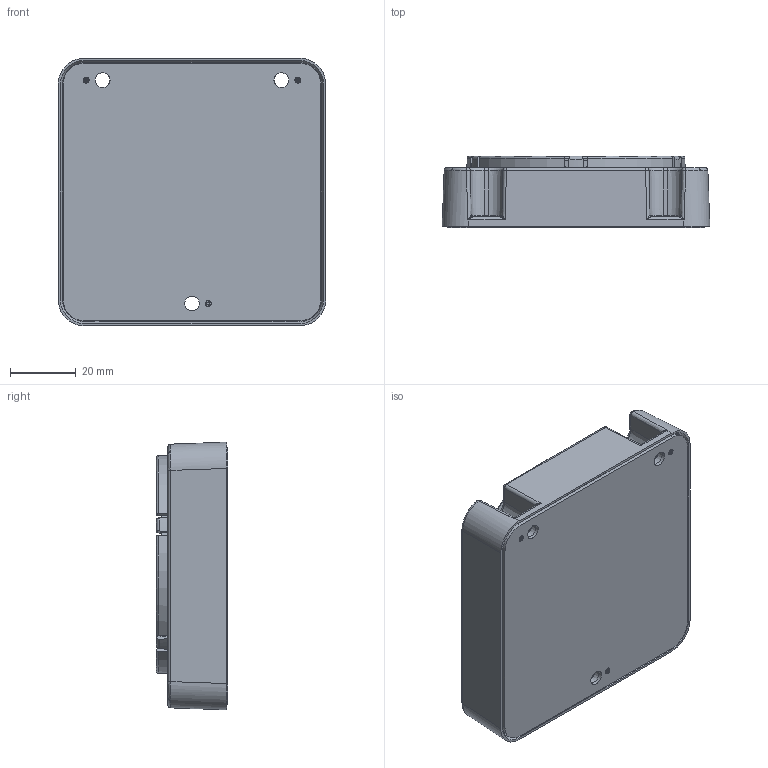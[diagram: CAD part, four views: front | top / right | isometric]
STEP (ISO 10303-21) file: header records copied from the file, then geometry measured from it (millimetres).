
FILE_DESCRIPTION(/* description */ (''),/* implementation_level */ '2;1');
FILE_NAME(/* name */ 'Assembly DLM Flex Rabbit_20150821.stp',/* time_stamp */ '2015-08-21T15:26:54+08:00',/* author */ (''),/* organization */ (''),/* preprocessor_version */ 'ST-DEVELOPER v11',/* originating_system */ 'SIEMENS PLM Software NX 7.5',/* authorisation */ '');
FILE_SCHEMA (('AUTOMOTIVE_DESIGN { 1 0 10303 214 1 1 1 1 }'));
Length unit declared in the file: millimetre
Products named in the file (1): 310064D19qs8
Bounding box: 81.46 x 21.65 x 81.46 mm (x, y, z)
Volume: 28164 mm3; surface area: 47709.6 mm2
Topology: 4 solids, 4 shells, 904 faces, 2365 edges, 1455 vertices
Faces by surface type: plane 331, cylinder 178, bspline 160, cone 104, torus 64, extrusion 35, sphere 32
Full cylindrical faces by diameter (mm): 1.8 x3, 4.5 x3, 40.1 x1
Entity records: 37364 total; most frequent: CARTESIAN_POINT 17168, ORIENTED_EDGE 4576, DIRECTION 3547, EDGE_CURVE 2288, VERTEX_POINT 1462, AXIS2_PLACEMENT_3D 1341, EDGE_LOOP 996, ADVANCED_FACE 901
